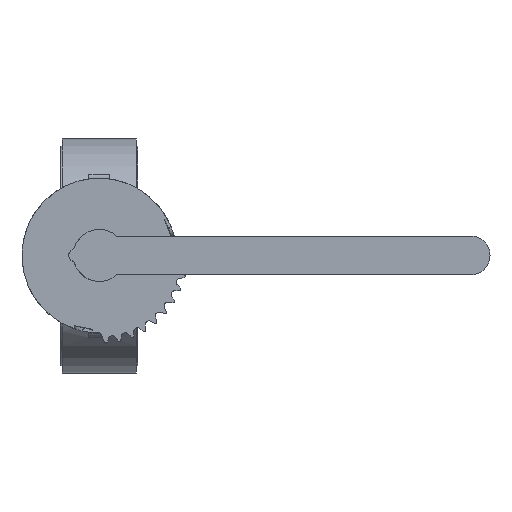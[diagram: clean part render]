
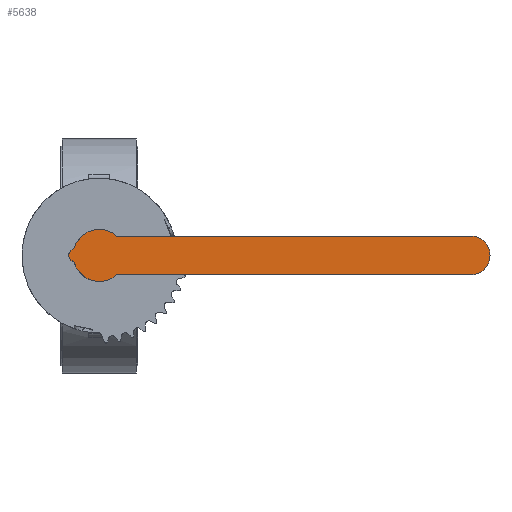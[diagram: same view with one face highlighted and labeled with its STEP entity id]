
A CAD part, top view. The second image highlights one B-rep face of the part: STEP entity #5638.
In plain terms, the highlighted planar face has unit normal (0, 0, 1).
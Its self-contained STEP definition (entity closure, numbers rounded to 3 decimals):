
#5638=ADVANCED_FACE('',(#11156),#11158,.T.);
#11156=FACE_BOUND('',#11157,.T.);
#11157=EDGE_LOOP('',(#15561,#15562,#15563,#15564,#15565,#15566,#15567,#15568));
#11158=PLANE('',#11159);
#11159=AXIS2_PLACEMENT_3D('',#11160,#11161,#11162);
#11160=CARTESIAN_POINT('',(0.,0.,237.));
#11161=DIRECTION('',(0.,0.,1.));
#11162=DIRECTION('',(1.,0.,0.));
#15561=ORIENTED_EDGE('',*,*,#18052,.T.);
#15562=ORIENTED_EDGE('',*,*,#18054,.T.);
#15563=ORIENTED_EDGE('',*,*,#18055,.T.);
#15564=ORIENTED_EDGE('',*,*,#18056,.T.);
#15565=ORIENTED_EDGE('',*,*,#18057,.T.);
#15566=ORIENTED_EDGE('',*,*,#18058,.T.);
#15567=ORIENTED_EDGE('',*,*,#18010,.T.);
#15568=ORIENTED_EDGE('',*,*,#18059,.T.);
#18010=EDGE_CURVE('',#21327,#21328,#21329,.T.);
#18052=EDGE_CURVE('',#21412,#21410,#21413,.T.);
#18054=EDGE_CURVE('',#21410,#21415,#21416,.T.);
#18055=EDGE_CURVE('',#21415,#21417,#21418,.T.);
#18056=EDGE_CURVE('',#21417,#21419,#21420,.T.);
#18057=EDGE_CURVE('',#21419,#21421,#21422,.T.);
#18058=EDGE_CURVE('',#21421,#21327,#21423,.T.);
#18059=EDGE_CURVE('',#21328,#21412,#21424,.T.);
#21327=VERTEX_POINT('',#29974);
#21328=VERTEX_POINT('',#29975);
#21329=LINE('',#29976,#29977);
#21410=VERTEX_POINT('',#30139);
#21412=VERTEX_POINT('',#30143);
#21413=LINE('',#30144,#30145);
#21415=VERTEX_POINT('',#30150);
#21416=CIRCLE('',#30151,17.5);
#21417=VERTEX_POINT('',#30155);
#21418=LINE('',#30156,#30157);
#21419=VERTEX_POINT('',#30159);
#21420=CIRCLE('',#30160,4.);
#21421=VERTEX_POINT('',#30164);
#21422=LINE('',#30165,#30166);
#21423=CIRCLE('',#30168,17.5);
#21424=CIRCLE('',#30172,13.);
#29974=CARTESIAN_POINT('',(11.715,-13.,237.));
#29975=CARTESIAN_POINT('',(250.,-13.,237.));
#29976=CARTESIAN_POINT('',(11.715,-13.,237.));
#29977=VECTOR('',#29978,1.);
#29978=DIRECTION('',(1.,0.,0.));
#30139=CARTESIAN_POINT('',(11.715,13.,237.));
#30143=CARTESIAN_POINT('',(250.,13.,237.));
#30144=CARTESIAN_POINT('',(250.,13.,237.));
#30145=VECTOR('',#30146,1.);
#30146=DIRECTION('',(-1.,0.,0.));
#30150=CARTESIAN_POINT('',(-16.771,5.,237.));
#30151=AXIS2_PLACEMENT_3D('',#30152,#30153,#30154);
#30152=CARTESIAN_POINT('',(0.,0.,237.));
#30153=DIRECTION('',(0.,0.,1.));
#30154=DIRECTION('',(0.669,0.743,0.));
#30155=CARTESIAN_POINT('',(-19.113,3.119,237.));
#30156=CARTESIAN_POINT('',(-16.771,5.,237.));
#30157=VECTOR('',#30158,1.);
#30158=DIRECTION('',(-0.78,-0.626,0.));
#30159=CARTESIAN_POINT('',(-19.113,-3.119,237.));
#30160=AXIS2_PLACEMENT_3D('',#30161,#30162,#30163);
#30161=CARTESIAN_POINT('',(-16.61,0.,237.));
#30162=DIRECTION('',(0.,0.,1.));
#30163=DIRECTION('',(-0.626,0.78,0.));
#30164=CARTESIAN_POINT('',(-16.771,-5.,237.));
#30165=CARTESIAN_POINT('',(-19.113,-3.119,237.));
#30166=VECTOR('',#30167,1.);
#30167=DIRECTION('',(0.78,-0.626,0.));
#30168=AXIS2_PLACEMENT_3D('',#30169,#30170,#30171);
#30169=CARTESIAN_POINT('',(0.,0.,237.));
#30170=DIRECTION('',(0.,0.,1.));
#30171=DIRECTION('',(-0.958,-0.286,0.));
#30172=AXIS2_PLACEMENT_3D('',#30173,#30174,#30175);
#30173=CARTESIAN_POINT('',(250.,0.,237.));
#30174=DIRECTION('',(0.,0.,1.));
#30175=DIRECTION('',(0.,-1.,0.));
